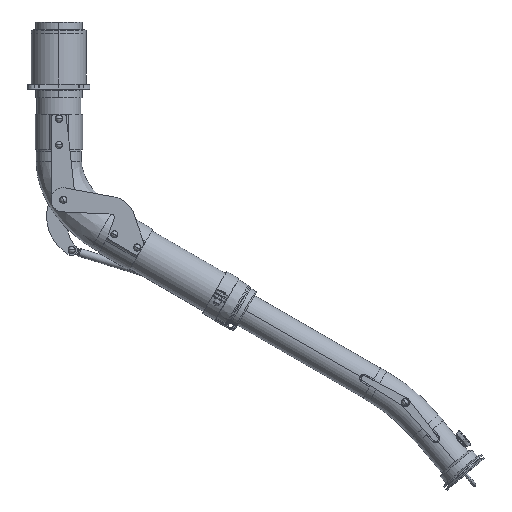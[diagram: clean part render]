
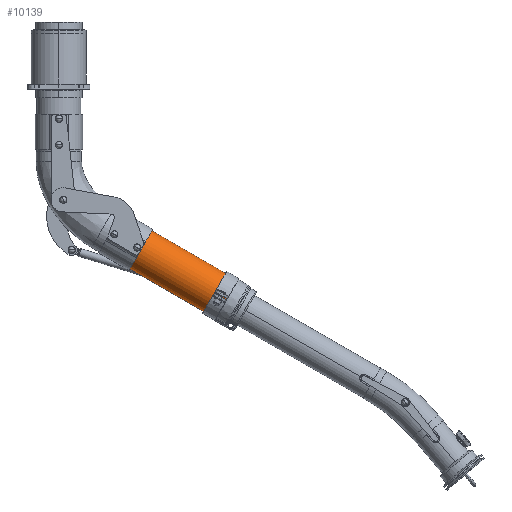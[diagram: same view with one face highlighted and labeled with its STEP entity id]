
A CAD part, top view. The second image highlights one B-rep face of the part: STEP entity #10139.
In plain terms, the highlighted cylindrical face has radius 50 mm (diameter 100 mm), a partial arc.
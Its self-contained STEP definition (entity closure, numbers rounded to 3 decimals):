
#9932=CARTESIAN_POINT('',(-284.75,50.,0.));
#9933=CARTESIAN_POINT('',(-284.75,50.,0.417));
#9934=CARTESIAN_POINT('',(-284.843,49.99,1.238));
#9935=CARTESIAN_POINT('',(-285.323,49.942,2.507));
#9936=CARTESIAN_POINT('',(-286.077,49.876,3.568));
#9937=CARTESIAN_POINT('',(-287.068,49.806,4.419));
#9938=CARTESIAN_POINT('',(-288.223,49.75,4.998));
#9939=CARTESIAN_POINT('',(-289.52,49.72,5.281));
#9940=CARTESIAN_POINT('',(-290.793,49.725,5.242));
#9941=CARTESIAN_POINT('',(-292.04,49.761,4.893));
#9942=CARTESIAN_POINT('',(-293.119,49.818,4.283));
#9943=CARTESIAN_POINT('',(-294.033,49.885,3.437));
#9944=CARTESIAN_POINT('',(-294.726,49.947,2.402));
#9945=CARTESIAN_POINT('',(-295.164,49.991,1.19));
#9946=CARTESIAN_POINT('',(-295.25,50.,0.401));
#9947=CARTESIAN_POINT('',(-295.25,50.,0.));
#9952=CARTESIAN_POINT('',(0.,0.,0.));
#9953=DIRECTION('',(1.,0.,0.));
#9954=DIRECTION('',(0.,1.,0.));
#9955=AXIS2_PLACEMENT_3D('',#9952,#9953,#9954);
#9960=CARTESIAN_POINT('',(-295.25,-50.,0.));
#9961=CARTESIAN_POINT('',(-295.25,-50.,0.399));
#9962=CARTESIAN_POINT('',(-295.165,-49.991,
1.186));
#9963=CARTESIAN_POINT('',(-294.726,-49.947,
2.402));
#9964=CARTESIAN_POINT('',(-294.033,-49.885,
3.436));
#9965=CARTESIAN_POINT('',(-293.119,-49.818,
4.283));
#9966=CARTESIAN_POINT('',(-292.041,-49.761,
4.892));
#9967=CARTESIAN_POINT('',(-290.793,-49.725,
5.242));
#9968=CARTESIAN_POINT('',(-289.52,-49.72,
5.281));
#9969=CARTESIAN_POINT('',(-288.223,-49.75,
4.998));
#9970=CARTESIAN_POINT('',(-287.069,-49.806,
4.419));
#9971=CARTESIAN_POINT('',(-286.077,-49.876,
3.568));
#9972=CARTESIAN_POINT('',(-285.323,-49.942,
2.507));
#9973=CARTESIAN_POINT('',(-284.843,-49.99,
1.239));
#9974=CARTESIAN_POINT('',(-284.75,-50.,0.418));
#9975=CARTESIAN_POINT('',(-284.75,-50.,0.));
#10014=DIRECTION('',(-1.,0.,0.));
#10015=VECTOR('',#10014,284.75);
#10016=CARTESIAN_POINT('',(0.,-50.,0.));
#10017=LINE('',#10016,#10015);
#10029=DIRECTION('',(-1.,0.,0.));
#10030=VECTOR('',#10029,284.75);
#10031=CARTESIAN_POINT('',(0.,50.,0.));
#10032=LINE('',#10031,#10030);
#10056=DIRECTION('',(-1.,0.,0.));
#10057=VECTOR('',#10056,54.75);
#10058=CARTESIAN_POINT('',(-295.25,50.,0.));
#10059=LINE('',#10058,#10057);
#10063=DIRECTION('',(-1.,0.,0.));
#10064=VECTOR('',#10063,54.75);
#10065=CARTESIAN_POINT('',(-295.25,-50.,0.));
#10066=LINE('',#10065,#10064);
#10078=CARTESIAN_POINT('',(-350.,0.,0.));
#10079=DIRECTION('',(1.,0.,0.));
#10080=DIRECTION('',(0.,1.,0.));
#10081=AXIS2_PLACEMENT_3D('',#10078,#10079,#10080);
#10086=CARTESIAN_POINT('',(0.,50.,0.));
#10087=CARTESIAN_POINT('',(0.,-50.,0.));
#10088=VERTEX_POINT('',#10086);
#10089=VERTEX_POINT('',#10087);
#10090=CARTESIAN_POINT('',(-350.,50.,0.));
#10091=CARTESIAN_POINT('',(-350.,-50.,0.));
#10092=VERTEX_POINT('',#10090);
#10093=VERTEX_POINT('',#10091);
#10094=VERTEX_POINT('',#9932);
#10095=VERTEX_POINT('',#9947);
#10096=VERTEX_POINT('',#9960);
#10097=VERTEX_POINT('',#9975);
#10117=CARTESIAN_POINT('',(-367.5,0.,0.));
#10118=DIRECTION('',(1.,0.,0.));
#10119=DIRECTION('',(0.,-1.,0.));
#10120=AXIS2_PLACEMENT_3D('',#10117,#10118,#10119);
#10121=CYLINDRICAL_SURFACE('',#10120,50.);
#10123=ORIENTED_EDGE('',*,*,#10122,.F.);
#10125=ORIENTED_EDGE('',*,*,#10124,.F.);
#10126=ORIENTED_EDGE('',*,*,#10103,.T.);
#10128=ORIENTED_EDGE('',*,*,#10127,.T.);
#10130=ORIENTED_EDGE('',*,*,#10129,.F.);
#10132=ORIENTED_EDGE('',*,*,#10131,.T.);
#10134=ORIENTED_EDGE('',*,*,#10133,.F.);
#10136=ORIENTED_EDGE('',*,*,#10135,.F.);
#10137=EDGE_LOOP('',(#10123,#10125,#10126,#10128,#10130,#10132,#10134,#10136));
#10138=FACE_OUTER_BOUND('',#10137,.F.);
#9948=B_SPLINE_CURVE_WITH_KNOTS('',3,(#9932,#9933,#9934,#9935,#9936,#9937,#9938,
#9939,#9940,#9941,#9942,#9943,#9944,#9945,#9946,#9947),.UNSPECIFIED.,.F.,.F.,(4,
1,1,1,1,1,1,1,1,1,1,1,1,4),(0.,0.077,0.154,
0.231,0.308,0.385,0.462,
0.538,0.615,0.692,0.769,
0.846,0.923,1.),.UNSPECIFIED.);
#9956=CIRCLE('',#9955,50.);
#9976=B_SPLINE_CURVE_WITH_KNOTS('',3,(#9960,#9961,#9962,#9963,#9964,#9965,#9966,
#9967,#9968,#9969,#9970,#9971,#9972,#9973,#9974,#9975),.UNSPECIFIED.,.F.,.F.,(4,
1,1,1,1,1,1,1,1,1,1,1,1,4),(0.,0.077,0.154,
0.231,0.308,0.385,0.462,
0.538,0.615,0.692,0.769,
0.846,0.923,1.),.UNSPECIFIED.);
#10082=CIRCLE('',#10081,50.);
#10103=EDGE_CURVE('',#10088,#10089,#9956,.T.);
#10122=EDGE_CURVE('',#10094,#10095,#9948,.T.);
#10124=EDGE_CURVE('',#10088,#10094,#10032,.T.);
#10127=EDGE_CURVE('',#10089,#10097,#10017,.T.);
#10129=EDGE_CURVE('',#10096,#10097,#9976,.T.);
#10131=EDGE_CURVE('',#10096,#10093,#10066,.T.);
#10133=EDGE_CURVE('',#10092,#10093,#10082,.T.);
#10135=EDGE_CURVE('',#10095,#10092,#10059,.T.);
#10139=ADVANCED_FACE('',(#10138),#10121,.T.);
